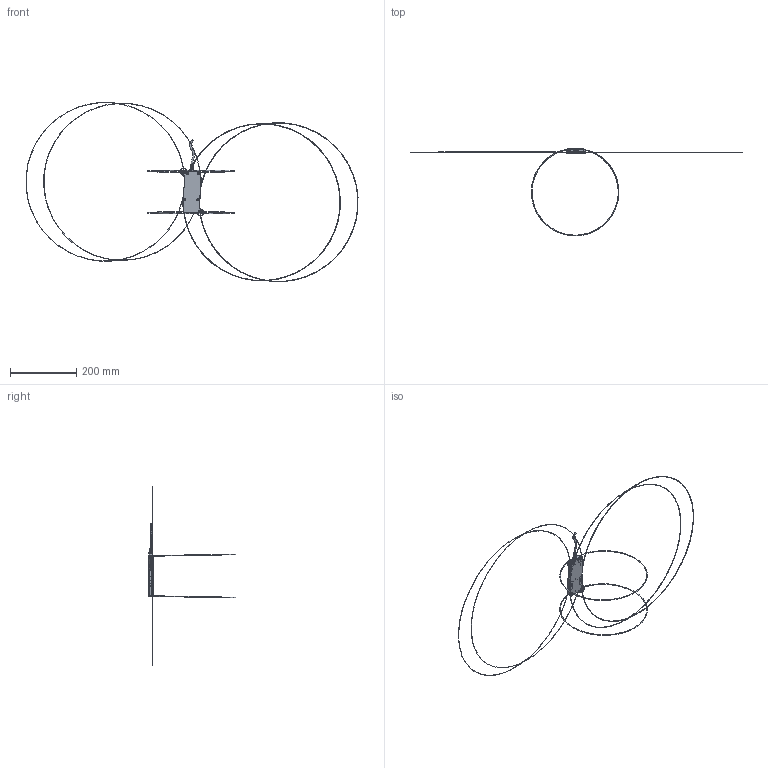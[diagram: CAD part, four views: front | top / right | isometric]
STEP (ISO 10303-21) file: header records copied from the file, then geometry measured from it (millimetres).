
FILE_DESCRIPTION((''),'2;1');
FILE_NAME('1','2014-06-04T',('tony'),(''),'PRO/ENGINEER BY PARAMETRIC TECHNOLOGY CORPORATION, 2008090','PRO/ENGINEER BY PARAMETRIC TECHNOLOGY CORPORATION, 2008090','');
FILE_SCHEMA(('CONFIG_CONTROL_DESIGN'));
Products named in the file (1): 1
Bounding box: 999 x 264.04 x 538.92 mm (x, y, z)
Surface area: 80706.2 mm2 (no closed solid volume)
Topology: 0 solids, 0 shells, 907 faces, 5016 edges, 4966 vertices
Faces by surface type: bspline 827, torus 78, sphere 2
Entity records: 86049 total; most frequent: CARTESIAN_POINT 43808, DIRECTION 6478, TRIMMED_CURVE 5381, DEFINITIONAL_REPRESENTATION 4918, PCURVE 4918, COMPOSITE_CURVE_SEGMENT 4918, VECTOR 4444, LINE 4444
